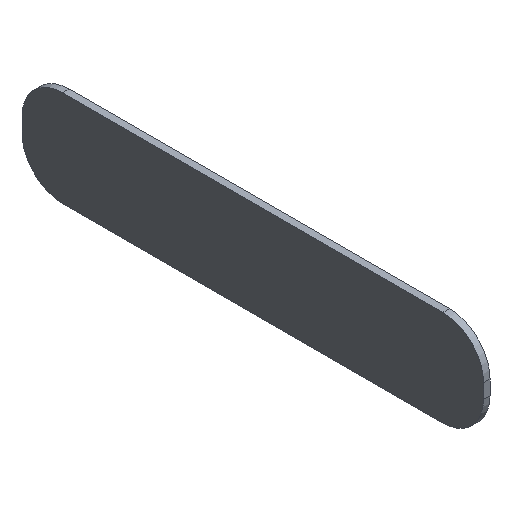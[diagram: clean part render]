
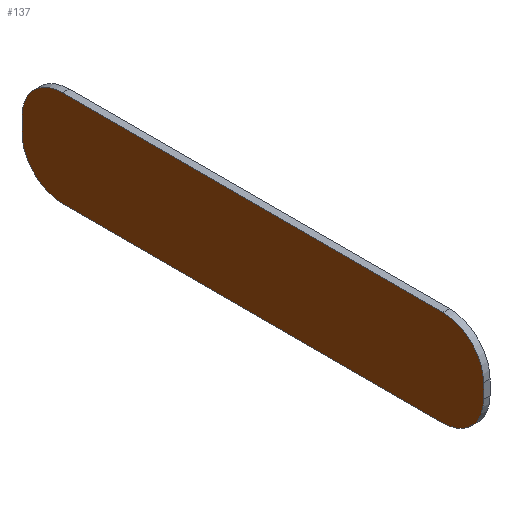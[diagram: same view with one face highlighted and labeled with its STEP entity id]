
A CAD part, isometric view. The second image highlights one B-rep face of the part: STEP entity #137.
In plain terms, the highlighted planar face has unit normal (-1, 0, 0).
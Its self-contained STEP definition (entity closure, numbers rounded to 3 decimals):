
#21 = EDGE_CURVE('',#22,#24,#26,.T.);
#22 = VERTEX_POINT('',#23);
#23 = CARTESIAN_POINT('',(-44.3,-13.4,5.9));
#24 = VERTEX_POINT('',#25);
#25 = CARTESIAN_POINT('',(-44.3,33.4,5.9));
#26 = SURFACE_CURVE('',#27,(#31,#43),.PCURVE_S1.);
#27 = LINE('',#28,#29);
#28 = CARTESIAN_POINT('',(-44.3,-18.4,5.9));
#29 = VECTOR('',#30,1.);
#30 = DIRECTION('',(0.,1.,0.));
#31 = PCURVE('',#32,#37);
#32 = PLANE('',#33);
#33 = AXIS2_PLACEMENT_3D('',#34,#35,#36);
#34 = CARTESIAN_POINT('',(-43.5,-18.4,5.9));
#35 = DIRECTION('',(0.,-0.,-1.));
#36 = DIRECTION('',(1.,0.,0.));
#37 = DEFINITIONAL_REPRESENTATION('',(#38),#42);
#38 = LINE('',#39,#40);
#39 = CARTESIAN_POINT('',(-0.8,0.));
#40 = VECTOR('',#41,1.);
#41 = DIRECTION('',(-0.,-1.));
#42 = ( GEOMETRIC_REPRESENTATION_CONTEXT(2) 
PARAMETRIC_REPRESENTATION_CONTEXT() REPRESENTATION_CONTEXT('2D SPACE',''
  ) );
#43 = PCURVE('',#44,#49);
#44 = PLANE('',#45);
#45 = AXIS2_PLACEMENT_3D('',#46,#47,#48);
#46 = CARTESIAN_POINT('',(-44.3,-18.4,5.9));
#47 = DIRECTION('',(-1.,0.,0.));
#48 = DIRECTION('',(0.,0.,1.));
#49 = DEFINITIONAL_REPRESENTATION('',(#50),#54);
#50 = LINE('',#51,#52);
#51 = CARTESIAN_POINT('',(0.,-0.));
#52 = VECTOR('',#53,1.);
#53 = DIRECTION('',(-0.,1.));
#54 = ( GEOMETRIC_REPRESENTATION_CONTEXT(2) 
PARAMETRIC_REPRESENTATION_CONTEXT() REPRESENTATION_CONTEXT('2D SPACE',''
  ) );
#72 = CYLINDRICAL_SURFACE('',#73,5.);
#73 = AXIS2_PLACEMENT_3D('',#74,#75,#76);
#74 = CARTESIAN_POINT('',(-43.5,-13.4,0.9));
#75 = DIRECTION('',(-1.,-0.,0.));
#76 = DIRECTION('',(0.,-0.,1.));
#126 = CYLINDRICAL_SURFACE('',#127,5.);
#127 = AXIS2_PLACEMENT_3D('',#128,#129,#130);
#128 = CARTESIAN_POINT('',(-43.5,33.4,0.9));
#129 = DIRECTION('',(-1.,-0.,0.));
#130 = DIRECTION('',(0.,-0.,1.));
#137 = ADVANCED_FACE('',(#138),#44,.T.);
#138 = FACE_BOUND('',#139,.F.);
#139 = EDGE_LOOP('',(#140,#141,#169,#197,#226,#254,#287,#315));
#140 = ORIENTED_EDGE('',*,*,#21,.F.);
#141 = ORIENTED_EDGE('',*,*,#142,.T.);
#142 = EDGE_CURVE('',#22,#143,#145,.T.);
#143 = VERTEX_POINT('',#144);
#144 = CARTESIAN_POINT('',(-44.3,-18.4,0.9));
#145 = SURFACE_CURVE('',#146,(#151,#162),.PCURVE_S1.);
#146 = CIRCLE('',#147,5.);
#147 = AXIS2_PLACEMENT_3D('',#148,#149,#150);
#148 = CARTESIAN_POINT('',(-44.3,-13.4,0.9));
#149 = DIRECTION('',(1.,0.,0.));
#150 = DIRECTION('',(-0.,-1.,-0.));
#151 = PCURVE('',#44,#152);
#152 = DEFINITIONAL_REPRESENTATION('',(#153),#161);
#153 = ( BOUNDED_CURVE() B_SPLINE_CURVE(2,(#154,#155,#156,#157,#158,#159
,#160),.UNSPECIFIED.,.T.,.F.) B_SPLINE_CURVE_WITH_KNOTS((1,2,2,2,2,1),(
    -2.094,0.,2.094,4.189,6.283,
8.378),.UNSPECIFIED.) CURVE() GEOMETRIC_REPRESENTATION_ITEM() 
RATIONAL_B_SPLINE_CURVE((1.,0.5,1.,0.5,1.,0.5,1.)) REPRESENTATION_ITEM(
  '') );
#154 = CARTESIAN_POINT('',(-5.,0.));
#155 = CARTESIAN_POINT('',(-13.66,0.));
#156 = CARTESIAN_POINT('',(-9.33,7.5));
#157 = CARTESIAN_POINT('',(-5.,15.));
#158 = CARTESIAN_POINT('',(-0.67,7.5));
#159 = CARTESIAN_POINT('',(3.66,0.));
#160 = CARTESIAN_POINT('',(-5.,0.));
#161 = ( GEOMETRIC_REPRESENTATION_CONTEXT(2) 
PARAMETRIC_REPRESENTATION_CONTEXT() REPRESENTATION_CONTEXT('2D SPACE',''
  ) );
#162 = PCURVE('',#72,#163);
#163 = DEFINITIONAL_REPRESENTATION('',(#164),#168);
#164 = LINE('',#165,#166);
#165 = CARTESIAN_POINT('',(4.712,0.8));
#166 = VECTOR('',#167,1.);
#167 = DIRECTION('',(-1.,0.));
#168 = ( GEOMETRIC_REPRESENTATION_CONTEXT(2) 
PARAMETRIC_REPRESENTATION_CONTEXT() REPRESENTATION_CONTEXT('2D SPACE',''
  ) );
#169 = ORIENTED_EDGE('',*,*,#170,.T.);
#170 = EDGE_CURVE('',#143,#171,#173,.T.);
#171 = VERTEX_POINT('',#172);
#172 = CARTESIAN_POINT('',(-44.3,-18.4,-0.9));
#173 = SURFACE_CURVE('',#174,(#178,#185),.PCURVE_S1.);
#174 = LINE('',#175,#176);
#175 = CARTESIAN_POINT('',(-44.3,-18.4,5.9));
#176 = VECTOR('',#177,1.);
#177 = DIRECTION('',(0.,-0.,-1.));
#178 = PCURVE('',#44,#179);
#179 = DEFINITIONAL_REPRESENTATION('',(#180),#184);
#180 = LINE('',#181,#182);
#181 = CARTESIAN_POINT('',(0.,-0.));
#182 = VECTOR('',#183,1.);
#183 = DIRECTION('',(-1.,0.));
#184 = ( GEOMETRIC_REPRESENTATION_CONTEXT(2) 
PARAMETRIC_REPRESENTATION_CONTEXT() REPRESENTATION_CONTEXT('2D SPACE',''
  ) );
#185 = PCURVE('',#186,#191);
#186 = PLANE('',#187);
#187 = AXIS2_PLACEMENT_3D('',#188,#189,#190);
#188 = CARTESIAN_POINT('',(-43.5,-18.4,5.9));
#189 = DIRECTION('',(0.,1.,0.));
#190 = DIRECTION('',(1.,0.,0.));
#191 = DEFINITIONAL_REPRESENTATION('',(#192),#196);
#192 = LINE('',#193,#194);
#193 = CARTESIAN_POINT('',(-0.8,0.));
#194 = VECTOR('',#195,1.);
#195 = DIRECTION('',(-0.,1.));
#196 = ( GEOMETRIC_REPRESENTATION_CONTEXT(2) 
PARAMETRIC_REPRESENTATION_CONTEXT() REPRESENTATION_CONTEXT('2D SPACE',''
  ) );
#197 = ORIENTED_EDGE('',*,*,#198,.F.);
#198 = EDGE_CURVE('',#199,#171,#201,.T.);
#199 = VERTEX_POINT('',#200);
#200 = CARTESIAN_POINT('',(-44.3,-13.4,-5.9));
#201 = SURFACE_CURVE('',#202,(#207,#214),.PCURVE_S1.);
#202 = CIRCLE('',#203,5.);
#203 = AXIS2_PLACEMENT_3D('',#204,#205,#206);
#204 = CARTESIAN_POINT('',(-44.3,-13.4,-0.9));
#205 = DIRECTION('',(-1.,0.,0.));
#206 = DIRECTION('',(-0.,-1.,-0.));
#207 = PCURVE('',#44,#208);
#208 = DEFINITIONAL_REPRESENTATION('',(#209),#213);
#209 = CIRCLE('',#210,5.);
#210 = AXIS2_PLACEMENT_2D('',#211,#212);
#211 = CARTESIAN_POINT('',(-6.8,5.));
#212 = DIRECTION('',(-0.,-1.));
#213 = ( GEOMETRIC_REPRESENTATION_CONTEXT(2) 
PARAMETRIC_REPRESENTATION_CONTEXT() REPRESENTATION_CONTEXT('2D SPACE',''
  ) );
#214 = PCURVE('',#215,#220);
#215 = CYLINDRICAL_SURFACE('',#216,5.);
#216 = AXIS2_PLACEMENT_3D('',#217,#218,#219);
#217 = CARTESIAN_POINT('',(-43.5,-13.4,-0.9));
#218 = DIRECTION('',(-1.,-0.,0.));
#219 = DIRECTION('',(0.,-0.,-1.));
#220 = DEFINITIONAL_REPRESENTATION('',(#221),#225);
#221 = LINE('',#222,#223);
#222 = CARTESIAN_POINT('',(-4.712,0.8));
#223 = VECTOR('',#224,1.);
#224 = DIRECTION('',(1.,0.));
#225 = ( GEOMETRIC_REPRESENTATION_CONTEXT(2) 
PARAMETRIC_REPRESENTATION_CONTEXT() REPRESENTATION_CONTEXT('2D SPACE',''
  ) );
#226 = ORIENTED_EDGE('',*,*,#227,.T.);
#227 = EDGE_CURVE('',#199,#228,#230,.T.);
#228 = VERTEX_POINT('',#229);
#229 = CARTESIAN_POINT('',(-44.3,33.4,-5.9));
#230 = SURFACE_CURVE('',#231,(#235,#242),.PCURVE_S1.);
#231 = LINE('',#232,#233);
#232 = CARTESIAN_POINT('',(-44.3,-18.4,-5.9));
#233 = VECTOR('',#234,1.);
#234 = DIRECTION('',(0.,1.,0.));
#235 = PCURVE('',#44,#236);
#236 = DEFINITIONAL_REPRESENTATION('',(#237),#241);
#237 = LINE('',#238,#239);
#238 = CARTESIAN_POINT('',(-11.8,0.));
#239 = VECTOR('',#240,1.);
#240 = DIRECTION('',(-0.,1.));
#241 = ( GEOMETRIC_REPRESENTATION_CONTEXT(2) 
PARAMETRIC_REPRESENTATION_CONTEXT() REPRESENTATION_CONTEXT('2D SPACE',''
  ) );
#242 = PCURVE('',#243,#248);
#243 = PLANE('',#244);
#244 = AXIS2_PLACEMENT_3D('',#245,#246,#247);
#245 = CARTESIAN_POINT('',(-43.5,-18.4,-5.9));
#246 = DIRECTION('',(0.,-0.,-1.));
#247 = DIRECTION('',(1.,0.,0.));
#248 = DEFINITIONAL_REPRESENTATION('',(#249),#253);
#249 = LINE('',#250,#251);
#250 = CARTESIAN_POINT('',(-0.8,0.));
#251 = VECTOR('',#252,1.);
#252 = DIRECTION('',(-0.,-1.));
#253 = ( GEOMETRIC_REPRESENTATION_CONTEXT(2) 
PARAMETRIC_REPRESENTATION_CONTEXT() REPRESENTATION_CONTEXT('2D SPACE',''
  ) );
#254 = ORIENTED_EDGE('',*,*,#255,.T.);
#255 = EDGE_CURVE('',#228,#256,#258,.T.);
#256 = VERTEX_POINT('',#257);
#257 = CARTESIAN_POINT('',(-44.3,38.4,-0.9));
#258 = SURFACE_CURVE('',#259,(#264,#275),.PCURVE_S1.);
#259 = CIRCLE('',#260,5.);
#260 = AXIS2_PLACEMENT_3D('',#261,#262,#263);
#261 = CARTESIAN_POINT('',(-44.3,33.4,-0.9));
#262 = DIRECTION('',(1.,0.,0.));
#263 = DIRECTION('',(-0.,-1.,-0.));
#264 = PCURVE('',#44,#265);
#265 = DEFINITIONAL_REPRESENTATION('',(#266),#274);
#266 = ( BOUNDED_CURVE() B_SPLINE_CURVE(2,(#267,#268,#269,#270,#271,#272
,#273),.UNSPECIFIED.,.T.,.F.) B_SPLINE_CURVE_WITH_KNOTS((1,2,2,2,2,1),(
    -2.094,0.,2.094,4.189,6.283,
8.378),.UNSPECIFIED.) CURVE() GEOMETRIC_REPRESENTATION_ITEM() 
RATIONAL_B_SPLINE_CURVE((1.,0.5,1.,0.5,1.,0.5,1.)) REPRESENTATION_ITEM(
  '') );
#267 = CARTESIAN_POINT('',(-6.8,46.8));
#268 = CARTESIAN_POINT('',(-15.46,46.8));
#269 = CARTESIAN_POINT('',(-11.13,54.3));
#270 = CARTESIAN_POINT('',(-6.8,61.8));
#271 = CARTESIAN_POINT('',(-2.47,54.3));
#272 = CARTESIAN_POINT('',(1.86,46.8));
#273 = CARTESIAN_POINT('',(-6.8,46.8));
#274 = ( GEOMETRIC_REPRESENTATION_CONTEXT(2) 
PARAMETRIC_REPRESENTATION_CONTEXT() REPRESENTATION_CONTEXT('2D SPACE',''
  ) );
#275 = PCURVE('',#276,#281);
#276 = CYLINDRICAL_SURFACE('',#277,5.);
#277 = AXIS2_PLACEMENT_3D('',#278,#279,#280);
#278 = CARTESIAN_POINT('',(-43.5,33.4,-0.9));
#279 = DIRECTION('',(-1.,-0.,0.));
#280 = DIRECTION('',(0.,-0.,-1.));
#281 = DEFINITIONAL_REPRESENTATION('',(#282),#286);
#282 = LINE('',#283,#284);
#283 = CARTESIAN_POINT('',(1.571,0.8));
#284 = VECTOR('',#285,1.);
#285 = DIRECTION('',(-1.,0.));
#286 = ( GEOMETRIC_REPRESENTATION_CONTEXT(2) 
PARAMETRIC_REPRESENTATION_CONTEXT() REPRESENTATION_CONTEXT('2D SPACE',''
  ) );
#287 = ORIENTED_EDGE('',*,*,#288,.F.);
#288 = EDGE_CURVE('',#289,#256,#291,.T.);
#289 = VERTEX_POINT('',#290);
#290 = CARTESIAN_POINT('',(-44.3,38.4,0.9));
#291 = SURFACE_CURVE('',#292,(#296,#303),.PCURVE_S1.);
#292 = LINE('',#293,#294);
#293 = CARTESIAN_POINT('',(-44.3,38.4,5.9));
#294 = VECTOR('',#295,1.);
#295 = DIRECTION('',(0.,-0.,-1.));
#296 = PCURVE('',#44,#297);
#297 = DEFINITIONAL_REPRESENTATION('',(#298),#302);
#298 = LINE('',#299,#300);
#299 = CARTESIAN_POINT('',(0.,56.8));
#300 = VECTOR('',#301,1.);
#301 = DIRECTION('',(-1.,0.));
#302 = ( GEOMETRIC_REPRESENTATION_CONTEXT(2) 
PARAMETRIC_REPRESENTATION_CONTEXT() REPRESENTATION_CONTEXT('2D SPACE',''
  ) );
#303 = PCURVE('',#304,#309);
#304 = PLANE('',#305);
#305 = AXIS2_PLACEMENT_3D('',#306,#307,#308);
#306 = CARTESIAN_POINT('',(-43.5,38.4,5.9));
#307 = DIRECTION('',(0.,1.,0.));
#308 = DIRECTION('',(1.,0.,0.));
#309 = DEFINITIONAL_REPRESENTATION('',(#310),#314);
#310 = LINE('',#311,#312);
#311 = CARTESIAN_POINT('',(-0.8,0.));
#312 = VECTOR('',#313,1.);
#313 = DIRECTION('',(-0.,1.));
#314 = ( GEOMETRIC_REPRESENTATION_CONTEXT(2) 
PARAMETRIC_REPRESENTATION_CONTEXT() REPRESENTATION_CONTEXT('2D SPACE',''
  ) );
#315 = ORIENTED_EDGE('',*,*,#316,.F.);
#316 = EDGE_CURVE('',#24,#289,#317,.T.);
#317 = SURFACE_CURVE('',#318,(#323,#330),.PCURVE_S1.);
#318 = CIRCLE('',#319,5.);
#319 = AXIS2_PLACEMENT_3D('',#320,#321,#322);
#320 = CARTESIAN_POINT('',(-44.3,33.4,0.9));
#321 = DIRECTION('',(-1.,0.,0.));
#322 = DIRECTION('',(-0.,-1.,-0.));
#323 = PCURVE('',#44,#324);
#324 = DEFINITIONAL_REPRESENTATION('',(#325),#329);
#325 = CIRCLE('',#326,5.);
#326 = AXIS2_PLACEMENT_2D('',#327,#328);
#327 = CARTESIAN_POINT('',(-5.,51.8));
#328 = DIRECTION('',(-0.,-1.));
#329 = ( GEOMETRIC_REPRESENTATION_CONTEXT(2) 
PARAMETRIC_REPRESENTATION_CONTEXT() REPRESENTATION_CONTEXT('2D SPACE',''
  ) );
#330 = PCURVE('',#126,#331);
#331 = DEFINITIONAL_REPRESENTATION('',(#332),#336);
#332 = LINE('',#333,#334);
#333 = CARTESIAN_POINT('',(-1.571,0.8));
#334 = VECTOR('',#335,1.);
#335 = DIRECTION('',(1.,0.));
#336 = ( GEOMETRIC_REPRESENTATION_CONTEXT(2) 
PARAMETRIC_REPRESENTATION_CONTEXT() REPRESENTATION_CONTEXT('2D SPACE',''
  ) );
